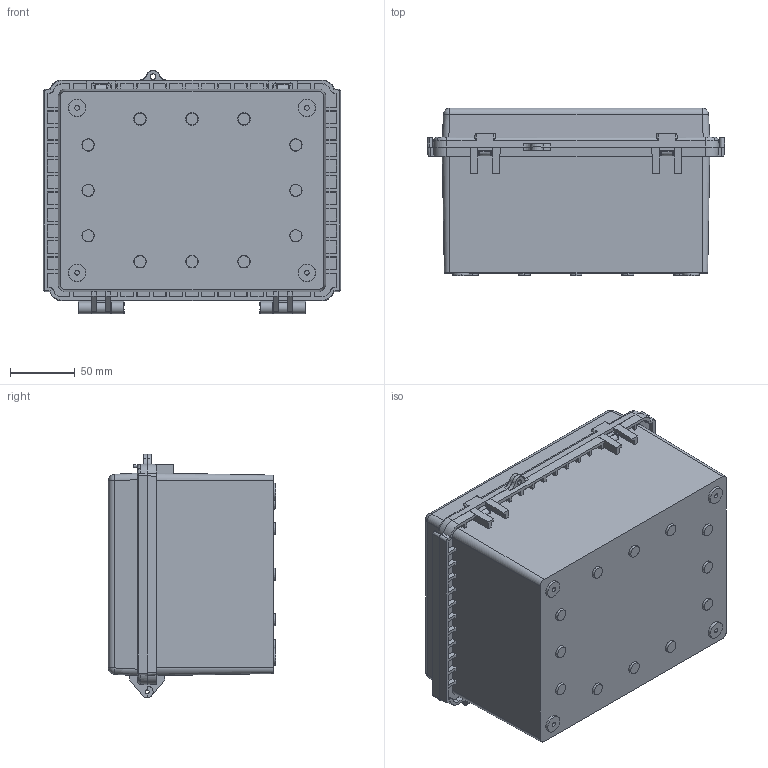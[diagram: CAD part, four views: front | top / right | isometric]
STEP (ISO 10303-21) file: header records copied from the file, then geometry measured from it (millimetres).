
FILE_DESCRIPTION (( 'STEP AP203' ), '1' );
FILE_NAME ('PC1722.STEP', '2019-10-22T13:42:02', ( '' ), ( '' ), 'SwSTEP 2.0', 'SolidWorks 2019', '' );
FILE_SCHEMA (( 'CONFIG_CONTROL_DESIGN' ));
Length unit declared in the file: millimetre
Products named in the file (3): PC1722
Assembly tree (2 placements, depth 2):
  PC1722
    PC1722
    PC1722
Bounding box: 229 x 129.01 x 187.48 mm (x, y, z)
Volume: 579593.4 mm3; surface area: 349032.2 mm2
Topology: 2 solids, 2 shells, 724 faces, 1925 edges, 1238 vertices
Faces by surface type: plane 466, cylinder 109, cone 96, bspline 36, sphere 9, torus 8
Entity records: 23729 total; most frequent: CARTESIAN_POINT 5863, ORIENTED_EDGE 3828, DIRECTION 3418, EDGE_CURVE 1914, LINE 1380, VECTOR 1380, VERTEX_POINT 1236, AXIS2_PLACEMENT_3D 1019
